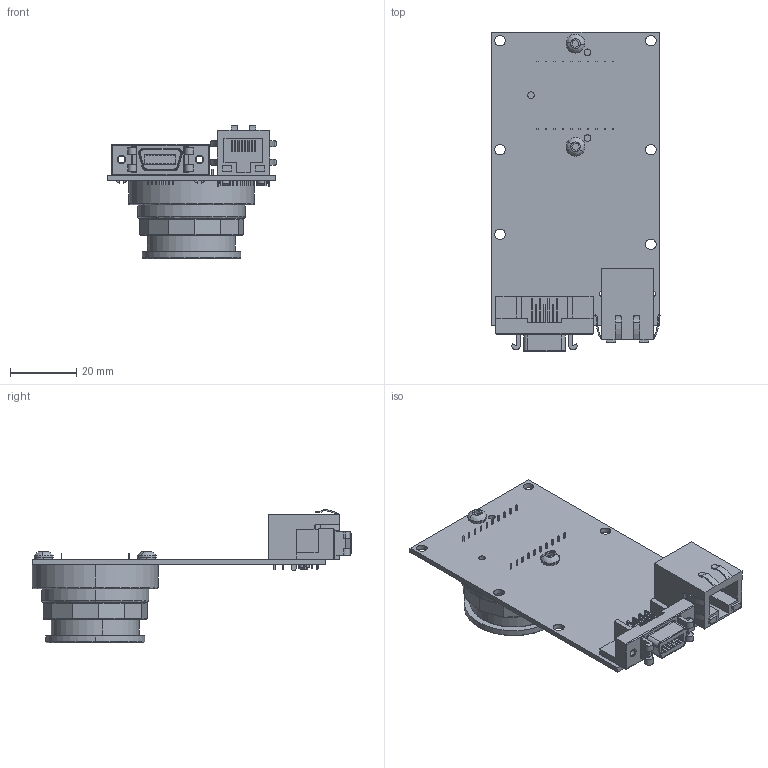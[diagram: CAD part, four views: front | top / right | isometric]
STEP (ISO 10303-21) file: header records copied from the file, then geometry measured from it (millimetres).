
FILE_DESCRIPTION (( 'STEP AP214' ), '1' );
FILE_NAME ('GB1380C.STEP', '2013-07-31T22:46:52', ( '' ), ( '' ), 'SwSTEP 2.0', 'SolidWorks 2013', '' );
FILE_SCHEMA (( 'AUTOMOTIVE_DESIGN' ));
Length unit declared in the file: millimetre
Products named in the file (19): Sony ICX285 BODY; 200081B-GB1380-650-LS-RA; 200080B-GB1380-650-LS; 210046B-GB1380-650-LS; 260039-3M 10214-55G3PC; 260036-HALO HFJ11-1G16E-L12RL; 110078A-GB MOUNT; 140027-SCREW BUTTON M3x6 SS; GB1380C; 110003AC-CV CMOUNT RING; 100097A-IR FILTER ASSEMBLY 0.75 INCH; 140004-LOW COST C-MOUNT CAP; 440002-IR CUT FILTER 22MM DIA; 110054AB-IR FILTER SUPPORT; 110031A-B EC-CCD LOCKING RING; 140008-washer spring lock #4; 110094A-GB CCD GASKET; 220054-SONY ICX285AQ; Sony ICX285 WINDOW
Assembly tree (20 placements, depth 4):
  GB1380C
    140027-SCREW BUTTON M3x6 SS  x2
    110078A-GB MOUNT
    200081B-GB1380-650-LS-RA
      260036-HALO HFJ11-1G16E-L12RL
      260039-3M 10214-55G3PC
      200080B-GB1380-650-LS
        210046B-GB1380-650-LS
    220054-SONY ICX285AQ
      Sony ICX285 BODY
      Sony ICX285 WINDOW
    110094A-GB CCD GASKET
    140008-washer spring lock #4  x2
    110031A-B EC-CCD LOCKING RING
    100097A-IR FILTER ASSEMBLY 0.75 INCH
      110054AB-IR FILTER SUPPORT
      440002-IR CUT FILTER 22MM DIA
    110003AC-CV CMOUNT RING
    140004-LOW COST C-MOUNT CAP
Bounding box: 51.12 x 96.77 x 40.39 mm (x, y, z)
Volume: 23323.1 mm3; surface area: 32206.4 mm2
Topology: 16 solids, 16 shells, 1328 faces, 3459 edges, 2219 vertices
Faces by surface type: plane 774, cylinder 350, cone 182, bspline 22
Entity records: 55782 total; most frequent: CARTESIAN_POINT 7918, DIRECTION 6824, ORIENTED_EDGE 6798, EDGE_CURVE 3399, LINE 2446, VECTOR 2446, AXIS2_PLACEMENT_3D 2189, VERTEX_POINT 2183
